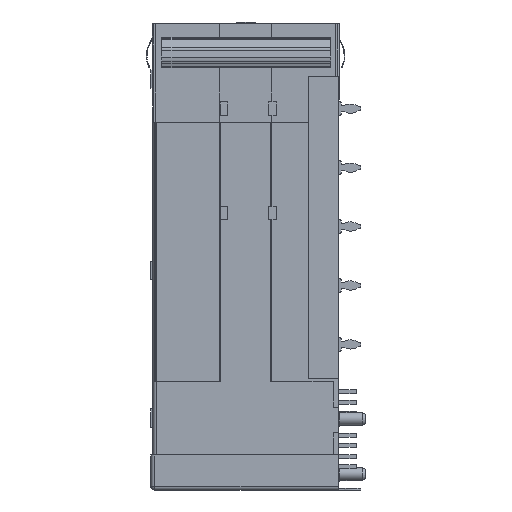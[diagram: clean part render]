
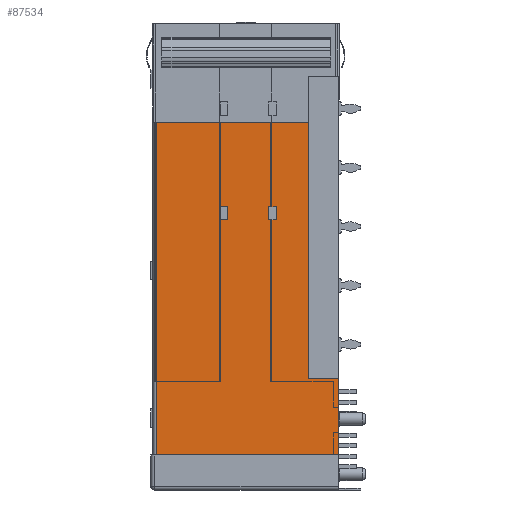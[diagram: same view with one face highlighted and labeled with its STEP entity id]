
A CAD part, left-side view. The second image highlights one B-rep face of the part: STEP entity #87534.
In plain terms, the highlighted planar face has unit normal (-1, 0, 0).
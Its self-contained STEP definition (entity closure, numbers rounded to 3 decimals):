
#1368 = DIRECTION ( 'NONE',  ( 0., 0., -1. ) ) ;
#1685 = VECTOR ( 'NONE', #22921, 1000. ) ;
#5269 = ORIENTED_EDGE ( 'NONE', *, *, #43558, .T. ) ;
#6764 = FACE_BOUND ( 'NONE', #115697, .T. ) ;
#9237 = EDGE_CURVE ( 'NONE', #80594, #115826, #13434, .T. ) ;
#9562 = VERTEX_POINT ( 'NONE', #12535 ) ;
#10818 = CARTESIAN_POINT ( 'NONE',  ( -57.125, 9.45, -26.6 ) ) ;
#11512 = CARTESIAN_POINT ( 'NONE',  ( -57.125, 25.2, -58.5 ) ) ;
#11577 = VERTEX_POINT ( 'NONE', #85089 ) ;
#12378 = CARTESIAN_POINT ( 'NONE',  ( -57.125, 25.2, -13.4 ) ) ;
#12535 = CARTESIAN_POINT ( 'NONE',  ( -57.125, 4.1, -48.1 ) ) ;
#12796 = CARTESIAN_POINT ( 'NONE',  ( -57.125, 16., -26.6 ) ) ;
#12886 = EDGE_CURVE ( 'NONE', #81893, #115678, #85739, .T. ) ;
#12896 = CARTESIAN_POINT ( 'NONE',  ( -57.125, 0., -63.25 ) ) ;
#13333 = LINE ( 'NONE', #63227, #23008 ) ;
#13434 = LINE ( 'NONE', #95704, #32569 ) ;
#14418 = EDGE_CURVE ( 'NONE', #115678, #11577, #32519, .T. ) ;
#15970 = EDGE_CURVE ( 'NONE', #126615, #9562, #89630, .T. ) ;
#17653 = VERTEX_POINT ( 'NONE', #71573 ) ;
#17950 = VERTEX_POINT ( 'NONE', #75123 ) ;
#21516 = CARTESIAN_POINT ( 'NONE',  ( -57.125, 9.45, -24.8 ) ) ;
#22234 = DIRECTION ( 'NONE',  ( 0., -1., 0. ) ) ;
#22496 = ORIENTED_EDGE ( 'NONE', *, *, #107847, .T. ) ;
#22921 = DIRECTION ( 'NONE',  ( 0., 0., 1. ) ) ;
#23008 = VECTOR ( 'NONE', #23556, 1000. ) ;
#23556 = DIRECTION ( 'NONE',  ( 0., 1., 0. ) ) ;
#23664 = DIRECTION ( 'NONE',  ( 0., 0., 1. ) ) ;
#26583 = VERTEX_POINT ( 'NONE', #73223 ) ;
#27553 = ORIENTED_EDGE ( 'NONE', *, *, #115637, .T. ) ;
#28890 = LINE ( 'NONE', #82234, #1685 ) ;
#30107 = ORIENTED_EDGE ( 'NONE', *, *, #63683, .T. ) ;
#30292 = EDGE_CURVE ( 'NONE', #11577, #126615, #28890, .T. ) ;
#32519 = LINE ( 'NONE', #11512, #34182 ) ;
#32569 = VECTOR ( 'NONE', #45195, 1000. ) ;
#34182 = VECTOR ( 'NONE', #82917, 1000. ) ;
#34343 = DIRECTION ( 'NONE',  ( -1., 0., 0. ) ) ;
#35414 = VECTOR ( 'NONE', #1368, 1000. ) ;
#37967 = CARTESIAN_POINT ( 'NONE',  ( -57.125, 9.45, -26.6 ) ) ;
#38385 = LINE ( 'NONE', #12378, #111895 ) ;
#41053 = CARTESIAN_POINT ( 'NONE',  ( -57.125, 0., -48.1 ) ) ;
#41633 = CARTESIAN_POINT ( 'NONE',  ( -57.125, 4.1, -13.4 ) ) ;
#42827 = LINE ( 'NONE', #37967, #119458 ) ;
#43274 = DIRECTION ( 'NONE',  ( 0., 0., 1. ) ) ;
#43558 = EDGE_CURVE ( 'NONE', #9562, #88556, #77254, .T. ) ;
#45023 = FACE_OUTER_BOUND ( 'NONE', #45459, .T. ) ;
#45195 = DIRECTION ( 'NONE',  ( 0., -1., 0. ) ) ;
#45459 = EDGE_LOOP ( 'NONE', ( #59756, #100676, #102148, #97759, #131036, #5269 ) ) ;
#47686 = CARTESIAN_POINT ( 'NONE',  ( -57.125, 4.1, -7.1 ) ) ;
#47836 = LINE ( 'NONE', #80468, #86155 ) ;
#47881 = DIRECTION ( 'NONE',  ( 0., 0., 1. ) ) ;
#51828 = VERTEX_POINT ( 'NONE', #112161 ) ;
#53504 = ORIENTED_EDGE ( 'NONE', *, *, #68719, .T. ) ;
#54026 = ORIENTED_EDGE ( 'NONE', *, *, #116596, .T. ) ;
#55361 = VECTOR ( 'NONE', #57898, 1000. ) ;
#56760 = VECTOR ( 'NONE', #47881, 1000. ) ;
#57898 = DIRECTION ( 'NONE',  ( 0., 0., -1. ) ) ;
#59244 = DIRECTION ( 'NONE',  ( 0., 1., 0. ) ) ;
#59756 = ORIENTED_EDGE ( 'NONE', *, *, #64267, .F. ) ;
#63227 = CARTESIAN_POINT ( 'NONE',  ( -57.125, 16., -26.6 ) ) ;
#63683 = EDGE_CURVE ( 'NONE', #105245, #80594, #88071, .T. ) ;
#64267 = EDGE_CURVE ( 'NONE', #81893, #88556, #38385, .T. ) ;
#67236 = ORIENTED_EDGE ( 'NONE', *, *, #9237, .T. ) ;
#67974 = CARTESIAN_POINT ( 'NONE',  ( -57.125, 16., -24.8 ) ) ;
#68289 = DIRECTION ( 'NONE',  ( 0., 1., 0. ) ) ;
#68719 = EDGE_CURVE ( 'NONE', #51828, #17653, #77037, .T. ) ;
#70458 = EDGE_CURVE ( 'NONE', #17950, #51828, #47836, .T. ) ;
#71029 = EDGE_CURVE ( 'NONE', #26583, #105245, #42827, .T. ) ;
#71573 = CARTESIAN_POINT ( 'NONE',  ( -57.125, 15., -26.6 ) ) ;
#73223 = CARTESIAN_POINT ( 'NONE',  ( -57.125, 8.45, -26.6 ) ) ;
#73496 = CARTESIAN_POINT ( 'NONE',  ( -57.125, 24.7, -58.5 ) ) ;
#73599 = PLANE ( 'NONE',  #94622 ) ;
#75123 = CARTESIAN_POINT ( 'NONE',  ( -57.125, 16., -24.8 ) ) ;
#75338 = LINE ( 'NONE', #83050, #35414 ) ;
#76697 = CARTESIAN_POINT ( 'NONE',  ( -57.125, 24.7, -63.25 ) ) ;
#76929 = VECTOR ( 'NONE', #43274, 1000. ) ;
#77037 = LINE ( 'NONE', #122164, #129691 ) ;
#77254 = LINE ( 'NONE', #47686, #101219 ) ;
#79967 = EDGE_LOOP ( 'NONE', ( #67236, #54026, #93302, #30107 ) ) ;
#80468 = CARTESIAN_POINT ( 'NONE',  ( -57.125, 16., -24.8 ) ) ;
#80594 = VERTEX_POINT ( 'NONE', #128251 ) ;
#81796 = FACE_BOUND ( 'NONE', #79967, .T. ) ;
#81893 = VERTEX_POINT ( 'NONE', #131473 ) ;
#82234 = CARTESIAN_POINT ( 'NONE',  ( -57.125, 0., -63.25 ) ) ;
#82917 = DIRECTION ( 'NONE',  ( 0., -1., 0. ) ) ;
#83050 = CARTESIAN_POINT ( 'NONE',  ( -57.125, 8.45, -24.8 ) ) ;
#83960 = LINE ( 'NONE', #67974, #56760 ) ;
#85089 = CARTESIAN_POINT ( 'NONE',  ( -57.125, 0., -58.5 ) ) ;
#85739 = LINE ( 'NONE', #76697, #55361 ) ;
#86155 = VECTOR ( 'NONE', #99725, 1000. ) ;
#87534 = ADVANCED_FACE ( 'NONE', ( #81796, #6764, #45023 ), #73599, .T. ) ;
#88071 = LINE ( 'NONE', #21516, #76929 ) ;
#88556 = VERTEX_POINT ( 'NONE', #41633 ) ;
#89630 = LINE ( 'NONE', #110599, #99242 ) ;
#90575 = VERTEX_POINT ( 'NONE', #12796 ) ;
#93302 = ORIENTED_EDGE ( 'NONE', *, *, #71029, .T. ) ;
#94622 = AXIS2_PLACEMENT_3D ( 'NONE', #12896, #34343, #23664 ) ;
#95704 = CARTESIAN_POINT ( 'NONE',  ( -57.125, 9.45, -24.8 ) ) ;
#97759 = ORIENTED_EDGE ( 'NONE', *, *, #30292, .T. ) ;
#99242 = VECTOR ( 'NONE', #59244, 1000. ) ;
#99725 = DIRECTION ( 'NONE',  ( 0., -1., 0. ) ) ;
#100676 = ORIENTED_EDGE ( 'NONE', *, *, #12886, .T. ) ;
#101219 = VECTOR ( 'NONE', #118672, 1000. ) ;
#102148 = ORIENTED_EDGE ( 'NONE', *, *, #14418, .T. ) ;
#105245 = VERTEX_POINT ( 'NONE', #10818 ) ;
#107847 = EDGE_CURVE ( 'NONE', #90575, #17950, #83960, .T. ) ;
#110599 = CARTESIAN_POINT ( 'NONE',  ( -57.125, 0., -48.1 ) ) ;
#111895 = VECTOR ( 'NONE', #22234, 1000. ) ;
#111905 = DIRECTION ( 'NONE',  ( 0., 0., -1. ) ) ;
#112161 = CARTESIAN_POINT ( 'NONE',  ( -57.125, 15., -24.8 ) ) ;
#112458 = ORIENTED_EDGE ( 'NONE', *, *, #70458, .T. ) ;
#115637 = EDGE_CURVE ( 'NONE', #17653, #90575, #13333, .T. ) ;
#115678 = VERTEX_POINT ( 'NONE', #73496 ) ;
#115697 = EDGE_LOOP ( 'NONE', ( #112458, #53504, #27553, #22496 ) ) ;
#115826 = VERTEX_POINT ( 'NONE', #128797 ) ;
#116596 = EDGE_CURVE ( 'NONE', #115826, #26583, #75338, .T. ) ;
#118672 = DIRECTION ( 'NONE',  ( 0., 0., 1. ) ) ;
#119458 = VECTOR ( 'NONE', #68289, 1000. ) ;
#122164 = CARTESIAN_POINT ( 'NONE',  ( -57.125, 15., -24.8 ) ) ;
#126615 = VERTEX_POINT ( 'NONE', #41053 ) ;
#128251 = CARTESIAN_POINT ( 'NONE',  ( -57.125, 9.45, -24.8 ) ) ;
#128797 = CARTESIAN_POINT ( 'NONE',  ( -57.125, 8.45, -24.8 ) ) ;
#129691 = VECTOR ( 'NONE', #111905, 1000. ) ;
#131036 = ORIENTED_EDGE ( 'NONE', *, *, #15970, .T. ) ;
#131473 = CARTESIAN_POINT ( 'NONE',  ( -57.125, 24.7, -13.4 ) ) ;
